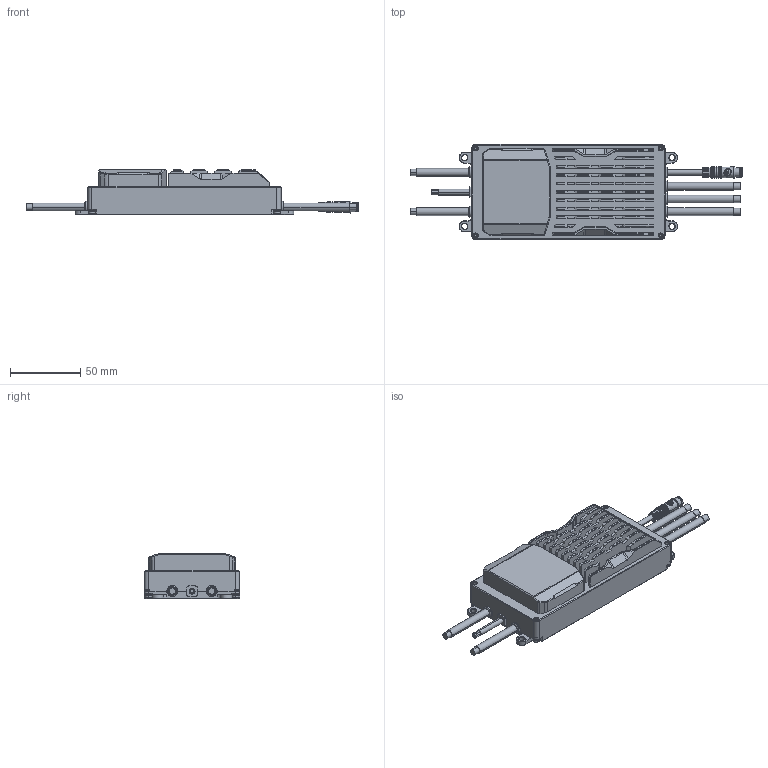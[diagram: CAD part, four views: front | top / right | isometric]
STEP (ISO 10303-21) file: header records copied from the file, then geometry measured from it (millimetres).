
FILE_DESCRIPTION((''),'2;1');
FILE_NAME('MK1','2025-06-05T17:56:26',('221126'),(''),'CREO PARAMETRIC BY PTC INC, 2021284','CREO PARAMETRIC BY PTC INC, 2021284','');
FILE_SCHEMA(('AUTOMOTIVE_DESIGN { 1 0 10303 214 1 1 1 1 }'));
Products named in the file (1): MK1
Bounding box: 236.9 x 68 x 32.5 mm (x, y, z)
Volume: 82913 mm3; surface area: 91781.3 mm2
Topology: 1 solids, 1 shells, 3822 faces, 9814 edges, 6312 vertices
Faces by surface type: plane 2546, cylinder 758, cone 328, bspline 151, torus 29, sphere 8, extrusion 2
Entity records: 168965 total; most frequent: CARTESIAN_POINT 45962, ORIENTED_EDGE 19628, DIRECTION 18155, PRESENTATION_STYLE_ASSIGNMENT 9915, STYLED_ITEM 9815, CURVE_STYLE 9814, EDGE_CURVE 9814, VECTOR 7005
